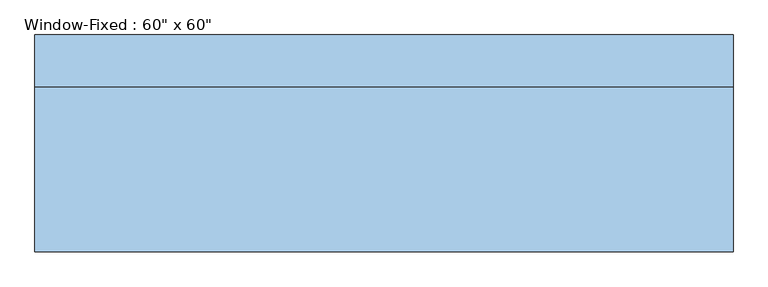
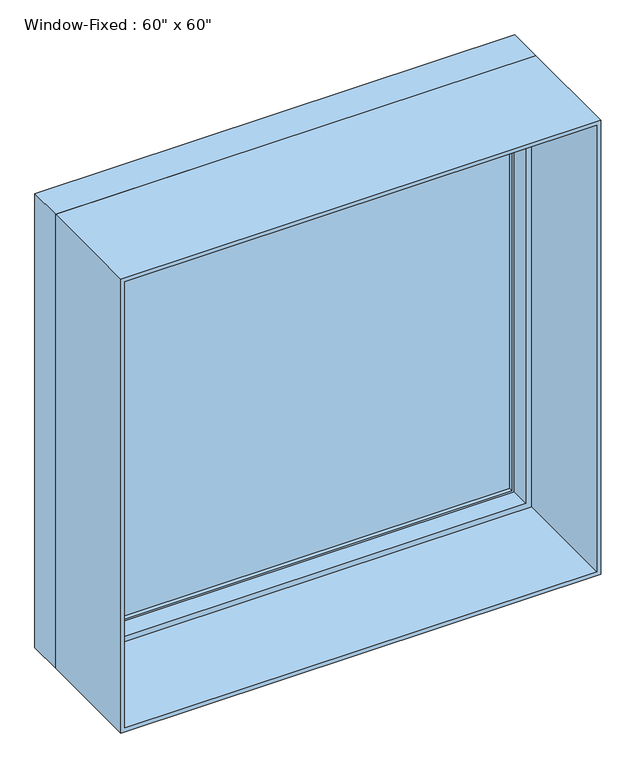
"""IFC4 building model written with IfcOpenShell, lengths in millimetres: window geometry."""

from ifc_helpers import new_model, si_unit, frame, origin, place, context, project, spatial, polyline, outline, extrude, faceted_brep, source, transform, mapped, element, save


def window_45f0c9e0(model_context):
    return source(origin(), model_context, "Body", "SolidModel", [
        extrude(outline(polyline([(723.9, 227.0125), (723.9, 220.6625), (-723.9, 220.6625), (-723.9, 227.0125), (723.9, 227.0125)])), frame((0.0, 0.0, 952.5), z_axis=(0.0, 0.0, 1.0), x_axis=(1.0, 0.0, 0.0)), (0.0, 0.0, 1.0), 1447.8),
        extrude(outline(polyline([(-723.9, 207.9625), (-723.9, 214.3125), (723.9, 214.3125), (723.9, 207.9625), (-723.9, 207.9625)])), frame((0.0, 0.0, 952.5), z_axis=(0.0, 0.0, 1.0), x_axis=(1.0, 0.0, 0.0)), (0.0, 0.0, 1.0), 1447.8),
        extrude(outline(polyline([(927.1, 749.3), (2425.7, 749.3), (2425.7, -749.3), (927.1, -749.3), (927.1, 749.3)]), holes=[polyline([(952.5, -723.9), (2400.3, -723.9), (2400.3, 723.9), (952.5, 723.9), (952.5, -723.9)])]), frame((0.0, 195.2625, 0.0), z_axis=(0.0, 1.0, 0.0), x_axis=(0.0, 0.0, 1.0)), (0.0, 0.0, 1.0), 44.45),
        extrude(outline(polyline([(2438.4, -762.0), (914.4, -762.0), (914.4, 762.0), (2438.4, 762.0), (2438.4, -762.0)]), holes=[polyline([(2425.7, 749.3), (927.1, 749.3), (927.1, -749.3), (2425.7, -749.3), (2425.7, 749.3)])]), frame((0.0, -227.0125, 0.0), z_axis=(0.0, 1.0, 0.0), x_axis=(0.0, 0.0, 1.0)), (0.0, 0.0, 1.0), 358.775),
        faceted_brep([(762.0, 131.7625, 2438.4), (762.0, 246.0625, 2438.4), (-762.0, 246.0625, 2438.4), (-762.0, 131.7625, 2438.4), (-762.0, 246.0625, 914.4), (-762.0, 131.7625, 914.4), (762.0, 246.0625, 914.4), (762.0, 131.7625, 914.4), (730.25, 131.7625, 2406.65), (730.25, 131.7625, 946.15), (-730.25, 131.7625, 946.15), (-730.25, 131.7625, 2406.65), (-749.3, 246.0625, 2425.7), (-749.3, 246.0625, 927.1), (749.3, 246.0625, 927.1), (749.3, 246.0625, 2425.7), (730.25, 195.2625, 2406.65), (-730.25, 195.2625, 2406.65), (749.3, 195.2625, 2425.7), (-749.3, 195.2625, 2425.7), (-730.25, 195.2625, 946.15), (-749.3, 195.2625, 927.1), (730.25, 195.2625, 946.15), (749.3, 195.2625, 927.1)], [[[0, 1, 2, 3]], [[3, 2, 4, 5]], [[5, 4, 6, 7]], [[3, 5, 7, 0], [8, 9, 10, 11]], [[7, 6, 1, 0]], [[1, 6, 4, 2], [12, 13, 14, 15]], [[16, 8, 11, 17]], [[15, 18, 19, 12]], [[17, 11, 10, 20]], [[12, 19, 21, 13]], [[20, 10, 9, 22]], [[13, 21, 23, 14]], [[22, 9, 8, 16]], [[18, 23, 21, 19], [17, 20, 22, 16]], [[14, 23, 18, 15]]]),
    ])


if __name__ == "__main__":
    model = new_model("IFC4")
    model_context = context("Model", 3, world=origin())
    ifc_project = project(units=[si_unit("LENGTHUNIT", "METRE", prefix="MILLI")], contexts=[model_context])
    site = spatial("IfcSite", under=ifc_project)
    building = spatial("IfcBuilding", under=site)
    placement = place(None, origin())
    window_shape = window_45f0c9e0(model_context)
    element("IfcWindow", 1, ObjectType="Window-Fixed : 60\" x 60\"", at=placement, inside=building, context=model_context, shape_type="MappedRepresentation", body=[
        mapped(window_shape, transform((0.0, 0.0, 0.0), x_axis=(1.0, 0.0, 0.0), y_axis=(0.0, 1.0, 0.0), z_axis=(0.0, 0.0, 1.0))),
    ])
    save(model, "model.ifc")
